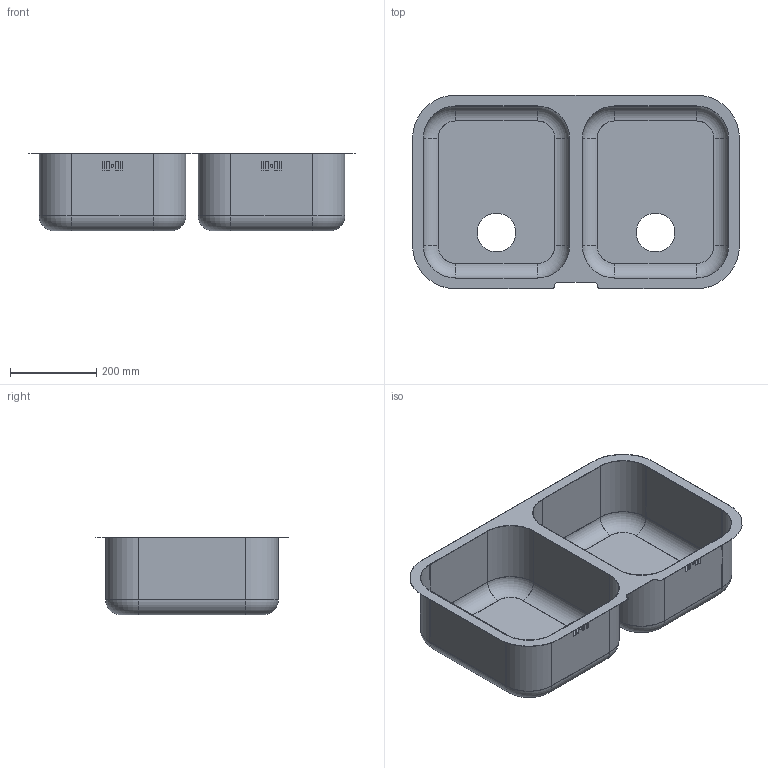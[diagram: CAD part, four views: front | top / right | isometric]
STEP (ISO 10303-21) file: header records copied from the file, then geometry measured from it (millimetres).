
FILE_DESCRIPTION(('CATIA V5 STEP Exchange'),'2;1');
FILE_NAME('C:\Users\linop\Desktop\UM4040.stp','2018-05-28T14:37:41+00:00',('none'),('none'),'CATIA Version 5-6 Release 2014','CATIA V5 STEP AP203','none');
FILE_SCHEMA(('CONFIG_CONTROL_DESIGN'));
Length unit declared in the file: millimetre
Products named in the file (1): UM4040
Bounding box: 760 x 450 x 180.9 mm (x, y, z)
Volume: 479183.7 mm3; surface area: 1534405.7 mm2
Topology: 3 solids, 3 shells, 176 faces, 472 edges, 304 vertices
Faces by surface type: cylinder 88, plane 72, torus 16
Entity records: 5321 total; most frequent: CARTESIAN_POINT 985, ORIENTED_EDGE 944, DIRECTION 752, EDGE_CURVE 472, AXIS2_PLACEMENT_3D 329, VERTEX_POINT 304, VECTOR 280, LINE 280
